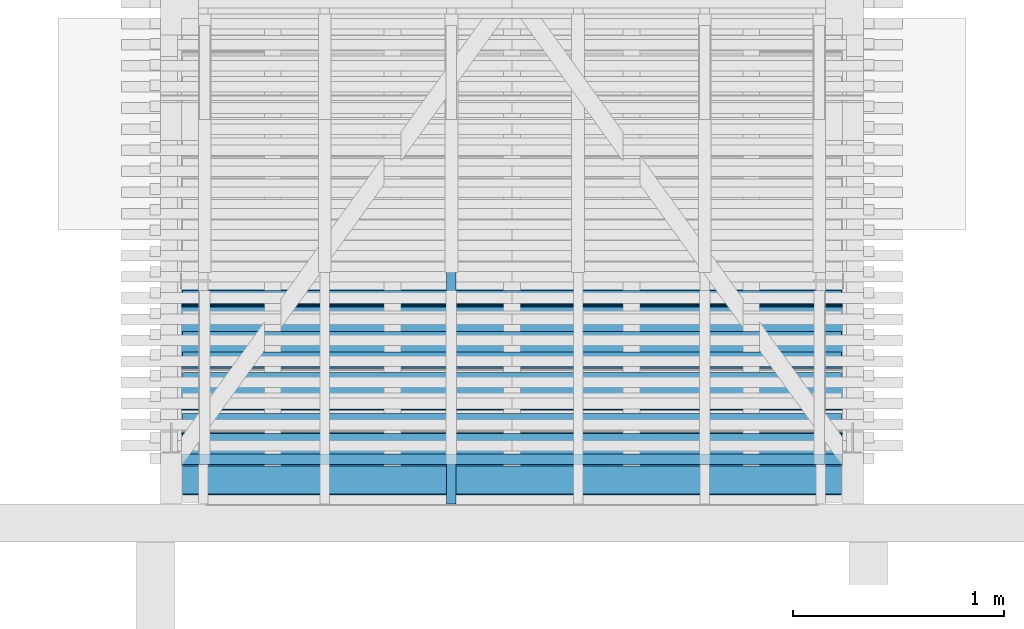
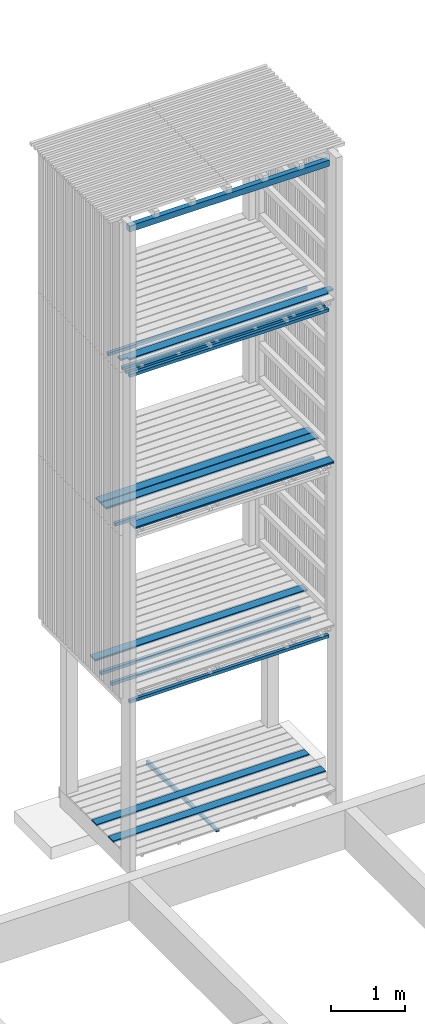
# One storey, part 139 of 182: 17 beams.
"""IFC2X3 building model written with IfcOpenShell, lengths in metres."""

import ifcopenshell
import ifcopenshell.guid

model = None  # the IFC model being written
_history = None  # IfcOwnerHistory: only IFC2X3 demands one
_inside = {}  # id of a spatial element -> (the spatial element, [elements in it])
_under = {}  # id of a project, library or spatial element -> (it, [spatial elements below it])
_declared = {}  # id of a project -> (the project, [libraries it declares])
_typed = {}  # id of a type object -> (the type object, [elements of that type])
_made_of = {}  # id of a material, layer set ... -> (it, [elements and type objects made of it])


def new_model(schema):
    """Start an empty IFC model of exactly this schema.

    Asked for "IFC4X3", IfcOpenShell would pick the latest addendum, in which some entities
    have other attributes; the version numbers below select the first issue.
    IFC2X3 requires an IfcOwnerHistory on every rooted entity: one is made here for all.
    """
    global model, _history
    if schema == "IFC4X3":
        model = ifcopenshell.file(schema_version=(4, 3, 0, 0))
    else:
        model = ifcopenshell.file(schema=schema)
    _inside.clear()
    _under.clear()
    _declared.clear()
    _typed.clear()
    _made_of.clear()
    _history = None
    if model.schema == "IFC2X3":
        org = make("IfcOrganization", Name="unknown")
        user = make(
            "IfcPersonAndOrganization",
            ThePerson=make("IfcPerson", FamilyName="unknown"),
            TheOrganization=org,
        )
        app = make(
            "IfcApplication",
            ApplicationDeveloper=org,
            Version="unknown",
            ApplicationFullName="unknown",
            ApplicationIdentifier="unknown",
        )
        _history = make(
            "IfcOwnerHistory",
            OwningUser=user,
            OwningApplication=app,
            ChangeAction="ADDED",
            CreationDate=0,
        )
    return model


def make(cls, **values):
    """One entity of the class cls with the attributes given. An attribute that is None is left unset."""
    return model.create_entity(
        cls, **{name: value for name, value in values.items() if value is not None}
    )


def rooted(cls, **values):
    """An entity with a GlobalId (a new one), such as an element, a storey or a relation."""
    return make(cls, GlobalId=ifcopenshell.guid.new(), OwnerHistory=_history, **values)


def si_unit(unit_type, name, prefix=None):
    """IfcSIUnit, for example si_unit("LENGTHUNIT", "METRE", prefix="MILLI")."""
    return make("IfcSIUnit", UnitType=unit_type, Prefix=prefix, Name=name)


def assignment(units):
    """IfcUnitAssignment: the units of a project."""
    return None if units is None else make("IfcUnitAssignment", Units=units)


def point(xyz):
    """IfcCartesianPoint."""
    return None if xyz is None else make("IfcCartesianPoint", Coordinates=xyz)


def direction(xyz):
    """IfcDirection."""
    return None if xyz is None else make("IfcDirection", DirectionRatios=xyz)


def frame(location, z_axis=None, x_axis=None):
    """IfcAxis2Placement3D, a coordinate frame: its origin and axes. An axis left out is left unset."""
    return make(
        "IfcAxis2Placement3D",
        Location=point(location),
        Axis=direction(z_axis),
        RefDirection=direction(x_axis),
    )


def origin():
    """The frame at (0, 0, 0) with its axes left unset."""
    return frame((0.0, 0.0, 0.0))


def place(relative_to, where):
    """IfcLocalPlacement: puts the frame where relative to a parent placement (None: the world)."""
    return make(
        "IfcLocalPlacement", PlacementRelTo=relative_to, RelativePlacement=where
    )


def context(
    kind, dimensions, precision=None, world=None, true_north=None, identifier=None
):
    """IfcGeometricRepresentationContext, for example the 3D "Model" context."""
    return make(
        "IfcGeometricRepresentationContext",
        ContextIdentifier=identifier,
        ContextType=kind,
        CoordinateSpaceDimension=dimensions,
        Precision=precision,
        WorldCoordinateSystem=world,
        TrueNorth=true_north,
    )


def project(units=None, contexts=None):
    """IfcProject with its units and contexts."""
    return rooted(
        "IfcProject",
        Name="project",
        RepresentationContexts=contexts,
        UnitsInContext=assignment(units),
    )


def spatial(cls, under=None, at=None, **own):
    """A site, building, storey or space (cls), placed at a placement, below another one or the project."""
    s = rooted(cls, ObjectPlacement=at, **own)
    if under is not None:
        _under.setdefault(under.id(), (under, []))[1].append(s)
    return s


def faces_of(points, faces, orient=None, outer=None):
    """IfcFace entities. A face is a list of loops; a loop is a list of indices into points, from 0.

    orient and outer hold one flag for each loop. By default every Orientation is true, the
    first loop of a face is its IfcFaceOuterBound and the others are IfcFaceBound.
    """
    made = []
    for i, loops in enumerate(faces):
        bounds = []
        for j, loop in enumerate(loops):
            is_outer = j == 0 if outer is None else outer[i][j]
            bounds.append(
                make(
                    "IfcFaceOuterBound" if is_outer else "IfcFaceBound",
                    Bound=make("IfcPolyLoop", Polygon=[points[k] for k in loop]),
                    Orientation=True if orient is None else orient[i][j],
                )
            )
        made.append(make("IfcFace", Bounds=bounds))
    return made


def faceted_brep(points, faces, orient=None, outer=None, voids=None):
    """IfcFacetedBrep: a solid bounded by flat faces; with voids (closed shells), ...WithVoids."""
    shared = [point(p) for p in points]
    hull = make("IfcClosedShell", CfsFaces=faces_of(shared, faces, orient, outer))
    if voids is None:
        return make("IfcFacetedBrep", Outer=hull)
    return make(
        "IfcFacetedBrepWithVoids",
        Outer=hull,
        Voids=[
            make(cls, CfsFaces=faces_of(shared, fs, o, b)) for cls, fs, o, b in voids
        ],
    )


def shape(context_of_items, identifier, shape_type, items):
    """IfcShapeRepresentation: the items that make up one representation, for example the "Body"."""
    return make(
        "IfcShapeRepresentation",
        ContextOfItems=context_of_items,
        RepresentationIdentifier=identifier,
        RepresentationType=shape_type,
        Items=items,
    )


def made_of(thing, what):
    """Note that an element or type object is made of a material, layer set ...; save() writes the relation."""
    if what is not None:
        _made_of.setdefault(what.id(), (what, []))[1].append(thing)
    return thing


def element(
    cls,
    number,
    at=None,
    inside=None,
    cuts=None,
    type_object=None,
    material=None,
    context=None,
    identifier="Body",
    shape_type=None,
    held_by="IfcProductDefinitionShape",
    body=None,
    shapes=None,
    **own,
):
    """One element of the class cls, such as IfcWall. Its Tag is "e" and its number.

    at: its placement. inside: the storey or other place that contains it. cuts: it is an
    opening in that element (IfcRelVoidsElement). A single representation is given by context,
    identifier, shape_type and body (its items); several are given by shapes. held_by: the class
    of the entity that holds the representations. save() writes the other relations.
    """
    e = rooted(cls, Tag="e%d" % number, ObjectPlacement=at, **own)
    if body is not None:
        shapes = [shape(context, identifier, shape_type, body)]
    if shapes is not None:
        e.Representation = make(held_by, Representations=shapes)
    if inside is not None:
        _inside.setdefault(inside.id(), (inside, []))[1].append(e)
    if cuts is not None:
        rooted(
            "IfcRelVoidsElement", RelatingBuildingElement=cuts, RelatedOpeningElement=e
        )
    if type_object is not None:
        _typed.setdefault(type_object.id(), (type_object, []))[1].append(e)
    return made_of(e, material)


def aggregate(whole, parts):
    """IfcRelAggregates: a whole, such as a stair, and the parts it consists of."""
    return rooted("IfcRelAggregates", RelatingObject=whole, RelatedObjects=parts)


def save(model, path):
    """Write the relations noted so far, then the file.

    IfcRelAggregates (storeys below a building ...), IfcRelContainedInSpatialStructure (elements
    in a storey), IfcRelDefinesByType, IfcRelAssociatesMaterial and IfcRelDeclares: one each for
    every whole, place, type object, material and project.
    """
    for whole, parts in _under.values():
        aggregate(whole, parts)
    for where, things in _inside.values():
        rooted(
            "IfcRelContainedInSpatialStructure",
            RelatedElements=things,
            RelatingStructure=where,
        )
    for kind, things in _typed.values():
        rooted("IfcRelDefinesByType", RelatedObjects=things, RelatingType=kind)
    for what, things in _made_of.values():
        rooted("IfcRelAssociatesMaterial", RelatedObjects=things, RelatingMaterial=what)
    for by, libraries in _declared.values():
        rooted("IfcRelDeclares", RelatingContext=by, RelatedDefinitions=libraries)
    model.write(path)


model = new_model("IFC2X3")

# Units and contexts
model_context = context("Model", 3, precision=1e-06, world=origin())
ifc_project = project(units=[si_unit("LENGTHUNIT", "METRE"), si_unit("PLANEANGLEUNIT", "RADIAN")], contexts=[model_context])

# Site, building, storey
site = spatial("IfcSite", under=ifc_project, CompositionType="ELEMENT")
building = spatial("IfcBuilding", under=site, CompositionType="ELEMENT")
storey = spatial("IfcBuildingStorey", under=building, Name="vs", CompositionType="ELEMENT", Elevation=-0.85)

# Beams
placement = place(None, origin())
beam_1_placement = place(placement, frame((36.38499999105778, 11.434577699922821, 0.033500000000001), z_axis=(0.0, 0.0, 1.0), x_axis=(-1.0, 0.0, 0.0)))
element("IfcBeam", 1, at=beam_1_placement, inside=storey, Name="Caillebotis", context=model_context, shape_type="Brep", body=[
    faceted_brep([(3.329999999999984, -0.067499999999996, 0.0135), (3.329999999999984, -0.072499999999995, 0.008500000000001), (3.329999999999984, -0.072499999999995, -0.013500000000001), (3.329999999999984, 0.072500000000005, -0.013500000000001), (3.329999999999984, 0.072500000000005, 0.0085), (3.329999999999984, 0.067500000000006, 0.0135), (0.0, 0.067500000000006, 0.0135), (0.0, 0.072500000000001, 0.0085), (0.0, 0.072500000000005, -0.013500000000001), (0.0, -0.072499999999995, -0.013500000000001), (0.0, -0.072499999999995, 0.008500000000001), (0.0, -0.067499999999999, 0.0135), (3.329999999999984, -0.072499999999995, -0.013500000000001), (3.329999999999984, -0.072499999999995, 0.008500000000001), (0.0, -0.072499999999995, 0.008500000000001), (0.0, -0.072499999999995, -0.013500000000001), (3.329999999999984, 0.072500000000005, -0.013500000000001), (3.329999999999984, -0.072499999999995, -0.013500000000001), (0.0, -0.072499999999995, -0.013500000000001), (0.0, 0.072500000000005, -0.013500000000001), (3.329999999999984, 0.072500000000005, 0.0085), (3.329999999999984, 0.072500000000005, -0.013500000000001), (0.0, 0.072500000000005, -0.013500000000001), (0.0, 0.072500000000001, 0.0085), (3.329999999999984, 0.067500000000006, 0.0135), (3.329999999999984, 0.072500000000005, 0.0085), (0.0, 0.072500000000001, 0.0085), (0.0, 0.067500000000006, 0.0135), (3.329999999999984, -0.067499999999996, 0.0135), (3.329999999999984, 0.067500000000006, 0.0135), (0.0, 0.067500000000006, 0.0135), (0.0, -0.067499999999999, 0.0135), (0.0, -0.072499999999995, 0.008500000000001), (3.329999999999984, -0.072499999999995, 0.008500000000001), (3.329999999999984, -0.067499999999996, 0.0135), (0.0, -0.067499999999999, 0.0135)], [[[0, 1, 2, 3, 4, 5]], [[6, 7, 8, 9, 10, 11]], [[12, 13, 14, 15]], [[16, 17, 18, 19]], [[20, 21, 22, 23]], [[24, 25, 26, 27]], [[28, 29, 30, 31]], [[32, 33, 34, 35]]]),
])
beam_2_placement = place(placement, frame((36.27999999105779, 10.776952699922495, 7.867999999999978), z_axis=(0.0, 0.0, 1.0), x_axis=(-1.0, 0.0, 0.0)))
element("IfcBeam", 2, at=beam_2_placement, inside=storey, Name="Bardage", context=model_context, shape_type="Brep", body=[
    faceted_brep([(3.120000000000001, 0.025000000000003, -0.025000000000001), (3.120000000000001, -0.024999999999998, -0.025000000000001), (-3e-15, -0.024999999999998, -0.025000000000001), (-3e-15, 0.025000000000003, -0.025000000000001), (-3e-15, -0.024999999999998, -0.025000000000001), (3.120000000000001, -0.024999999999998, -0.025000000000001), (3.120000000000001, -0.024999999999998, 0.024999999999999), (-3e-15, -0.024999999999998, 0.024999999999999), (3.120000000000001, -0.024999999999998, -0.025000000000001), (3.120000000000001, 0.025000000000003, -0.025000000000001), (3.120000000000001, 0.025000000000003, 0.024999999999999), (3.120000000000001, -0.024999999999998, 0.024999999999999), (3.120000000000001, 0.025000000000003, 0.024999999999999), (3.120000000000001, 0.025000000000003, -0.025000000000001), (-3e-15, 0.025000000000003, -0.025000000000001), (-3e-15, 0.025000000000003, 0.024999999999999), (-3e-15, -0.024999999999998, 0.024999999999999), (3.120000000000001, -0.024999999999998, 0.024999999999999), (3.120000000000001, 0.025000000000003, 0.024999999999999), (-3e-15, 0.025000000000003, 0.024999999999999), (-3e-15, -0.024999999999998, -0.025000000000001), (-3e-15, -0.024999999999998, 0.024999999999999), (-3e-15, 0.025000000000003, 0.024999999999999), (-3e-15, 0.025000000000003, -0.025000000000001)], [[[0, 1, 2, 3]], [[4, 5, 6, 7]], [[8, 9, 10, 11]], [[12, 13, 14, 15]], [[16, 17, 18, 19]], [[20, 21, 22, 23]]]),
])
beam_3_placement = place(placement, frame((36.38499999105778, 10.984577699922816, 0.033500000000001), z_axis=(0.0, 0.0, 1.0), x_axis=(-1.0, -1e-15, 0.0)))
element("IfcBeam", 3, at=beam_3_placement, inside=storey, Name="Caillebotis", context=model_context, shape_type="Brep", body=[
    faceted_brep([(3.329999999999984, -0.067500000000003, 0.0135), (3.329999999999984, -0.072500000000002, 0.008500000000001), (3.329999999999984, -0.072499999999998, -0.013500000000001), (3.329999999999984, 0.072499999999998, -0.013500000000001), (3.329999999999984, 0.072499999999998, 0.0085), (3.329999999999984, 0.067500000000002, 0.0135), (0.0, 0.067500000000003, 0.0135), (0.0, 0.072500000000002, 0.0085), (0.0, 0.072500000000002, -0.013500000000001), (0.0, -0.072499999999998, -0.013500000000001), (0.0, -0.072499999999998, 0.008500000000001), (0.0, -0.067499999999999, 0.0135), (3.329999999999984, -0.072499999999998, -0.013500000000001), (3.329999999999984, -0.072500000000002, 0.008500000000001), (0.0, -0.072499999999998, 0.008500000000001), (0.0, -0.072499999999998, -0.013500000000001), (3.329999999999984, 0.072499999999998, -0.013500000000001), (3.329999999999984, -0.072499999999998, -0.013500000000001), (0.0, -0.072499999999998, -0.013500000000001), (0.0, 0.072500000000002, -0.013500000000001), (3.329999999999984, 0.072499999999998, 0.0085), (3.329999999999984, 0.072499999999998, -0.013500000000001), (0.0, 0.072500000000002, -0.013500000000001), (0.0, 0.072500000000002, 0.0085), (3.329999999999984, 0.067500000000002, 0.0135), (3.329999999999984, 0.072499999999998, 0.0085), (0.0, 0.072500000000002, 0.0085), (0.0, 0.067500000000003, 0.0135), (3.329999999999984, -0.067500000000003, 0.0135), (3.329999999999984, 0.067500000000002, 0.0135), (0.0, 0.067500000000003, 0.0135), (0.0, -0.067499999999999, 0.0135), (0.0, -0.072499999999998, 0.008500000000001), (3.329999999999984, -0.072500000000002, 0.008500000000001), (3.329999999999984, -0.067500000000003, 0.0135), (0.0, -0.067499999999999, 0.0135)], [[[0, 1, 2, 3, 4, 5]], [[6, 7, 8, 9, 10, 11]], [[12, 13, 14, 15]], [[16, 17, 18, 19]], [[20, 21, 22, 23]], [[24, 25, 26, 27]], [[28, 29, 30, 31]], [[32, 33, 34, 35]]]),
])
beam_4_placement = place(placement, frame((36.384999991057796, 11.334577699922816, 5.433499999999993), z_axis=(0.0, 0.0, 1.0), x_axis=(-1.0, 0.0, 0.0)))
element("IfcBeam", 4, at=beam_4_placement, inside=storey, Name="Caillebotis", context=model_context, shape_type="Brep", body=[
    faceted_brep([(3.329999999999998, -0.072499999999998, -0.0135), (3.329999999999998, 0.072500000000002, -0.0135), (3.329999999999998, 0.072500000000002, 0.0085), (3.329999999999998, 0.067500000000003, 0.0135), (3.329999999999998, -0.067500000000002, 0.0135), (3.329999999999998, -0.072499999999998, 0.008500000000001), (0.0, -0.072499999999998, 0.008500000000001), (0.0, -0.067500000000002, 0.0135), (0.0, 0.067500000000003, 0.0135), (0.0, 0.072499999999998, 0.0085), (0.0, 0.072499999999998, -0.0135), (0.0, -0.072499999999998, -0.0135), (3.329999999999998, 0.072500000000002, 0.0085), (3.329999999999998, 0.072500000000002, -0.0135), (0.0, 0.072499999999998, -0.0135), (0.0, 0.072499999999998, 0.0085), (3.329999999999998, 0.067500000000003, 0.0135), (3.329999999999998, 0.072500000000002, 0.0085), (0.0, 0.072499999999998, 0.0085), (0.0, 0.067500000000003, 0.0135), (3.329999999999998, -0.067500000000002, 0.0135), (3.329999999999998, 0.067500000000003, 0.0135), (0.0, 0.067500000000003, 0.0135), (0.0, -0.067500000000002, 0.0135), (3.329999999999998, -0.072499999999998, 0.008500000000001), (3.329999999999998, -0.067500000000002, 0.0135), (0.0, -0.067500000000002, 0.0135), (0.0, -0.072499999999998, 0.008500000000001), (3.329999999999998, -0.072499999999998, -0.0135), (3.329999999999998, -0.072499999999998, 0.008500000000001), (0.0, -0.072499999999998, 0.008500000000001), (0.0, -0.072499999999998, -0.0135), (0.0, 0.072499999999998, -0.0135), (3.329999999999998, 0.072500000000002, -0.0135), (3.329999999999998, -0.072499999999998, -0.0135), (0.0, -0.072499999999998, -0.0135)], [[[0, 1, 2, 3, 4, 5]], [[6, 7, 8, 9, 10, 11]], [[12, 13, 14, 15]], [[16, 17, 18, 19]], [[20, 21, 22, 23]], [[24, 25, 26, 27]], [[28, 29, 30, 31]], [[32, 33, 34, 35]]]),
])
beam_5_placement = place(placement, frame((36.38499999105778, 11.484577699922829, 2.733499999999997), z_axis=(0.0, 0.0, 1.0), x_axis=(-1.0, -8e-15, 0.0)))
element("IfcBeam", 5, at=beam_5_placement, inside=storey, Name="Caillebotis", context=model_context, shape_type="Brep", body=[
    faceted_brep([(3.329999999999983, -0.072500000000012, -0.0135), (3.329999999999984, 0.072499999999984, -0.0135), (3.329999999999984, 0.072499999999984, 0.0085), (3.329999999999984, 0.067499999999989, 0.0135), (3.329999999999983, -0.067500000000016, 0.0135), (3.329999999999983, -0.072500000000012, 0.008500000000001), (-1.5e-14, -0.072499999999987, 0.008500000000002), (-1.5e-14, -0.067499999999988, 0.0135), (-1.4e-14, 0.067500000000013, 0.0135), (-1.4e-14, 0.072500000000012, 0.0085), (-1.4e-14, 0.072500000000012, -0.0135), (-1.5e-14, -0.072499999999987, -0.0135), (3.329999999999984, 0.072499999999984, 0.0085), (3.329999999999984, 0.072499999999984, -0.0135), (-1.4e-14, 0.072500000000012, -0.0135), (-1.4e-14, 0.072500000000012, 0.0085), (3.329999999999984, 0.067499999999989, 0.0135), (3.329999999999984, 0.072499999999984, 0.0085), (-1.4e-14, 0.072500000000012, 0.0085), (-1.4e-14, 0.067500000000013, 0.0135), (3.329999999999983, -0.067500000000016, 0.0135), (3.329999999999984, 0.067499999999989, 0.0135), (-1.4e-14, 0.067500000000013, 0.0135), (-1.5e-14, -0.067499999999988, 0.0135), (3.329999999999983, -0.072500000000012, 0.008500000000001), (3.329999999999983, -0.067500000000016, 0.0135), (-1.5e-14, -0.067499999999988, 0.0135), (-1.5e-14, -0.072499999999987, 0.008500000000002), (3.329999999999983, -0.072500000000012, -0.0135), (3.329999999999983, -0.072500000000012, 0.008500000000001), (-1.5e-14, -0.072499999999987, 0.008500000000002), (-1.5e-14, -0.072499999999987, -0.0135), (-1.4e-14, 0.072500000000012, -0.0135), (3.329999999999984, 0.072499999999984, -0.0135), (3.329999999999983, -0.072500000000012, -0.0135), (-1.5e-14, -0.072499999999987, -0.0135)], [[[0, 1, 2, 3, 4, 5]], [[6, 7, 8, 9, 10, 11]], [[12, 13, 14, 15]], [[16, 17, 18, 19]], [[20, 21, 22, 23]], [[24, 25, 26, 27]], [[28, 29, 30, 31]], [[32, 33, 34, 35]]]),
])
beam_6_placement = place(placement, frame((36.27999999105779, 10.680077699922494, 2.467999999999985), z_axis=(0.0, 0.0, 1.0), x_axis=(-1.0, 0.0, 0.0)))
element("IfcBeam", 6, at=beam_6_placement, inside=storey, Name="Bardage", context=model_context, shape_type="Brep", body=[
    faceted_brep([(3.120000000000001, -0.025000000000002, 0.025), (3.120000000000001, -0.025000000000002, -0.025), (3.120000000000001, 0.024999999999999, -0.025), (3.120000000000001, 0.024999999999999, 0.025), (-3e-15, 0.024999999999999, 0.025), (-3e-15, 0.024999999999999, -0.025), (-3e-15, -0.025000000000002, -0.025), (-3e-15, -0.025000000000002, 0.025), (3.120000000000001, -0.025000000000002, -0.025), (3.120000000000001, -0.025000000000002, 0.025), (-3e-15, -0.025000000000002, 0.025), (-3e-15, -0.025000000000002, -0.025), (3.120000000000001, 0.024999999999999, -0.025), (3.120000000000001, -0.025000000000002, -0.025), (-3e-15, -0.025000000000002, -0.025), (-3e-15, 0.024999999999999, -0.025), (3.120000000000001, 0.024999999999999, 0.025), (3.120000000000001, 0.024999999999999, -0.025), (-3e-15, 0.024999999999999, -0.025), (-3e-15, 0.024999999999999, 0.025), (3.120000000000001, -0.025000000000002, 0.025), (3.120000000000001, 0.024999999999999, 0.025), (-3e-15, 0.024999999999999, 0.025), (-3e-15, -0.025000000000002, 0.025)], [[[0, 1, 2, 3]], [[4, 5, 6, 7]], [[8, 9, 10, 11]], [[12, 13, 14, 15]], [[16, 17, 18, 19]], [[20, 21, 22, 23]]]),
])
beam_7_placement = place(placement, frame((36.2849999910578, 10.690077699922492, 10.30499999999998), z_axis=(0.0, 0.0, 1.0), x_axis=(-1.0, 0.0, 0.0)))
element("IfcBeam", 7, at=beam_7_placement, inside=storey, Name="Support bardage", context=model_context, shape_type="Brep", body=[
    faceted_brep([(2e-15, 0.04, -0.050000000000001), (2e-15, -0.039999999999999, -0.050000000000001), (2e-15, -0.039999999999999, 0.050000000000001), (2e-15, 0.04, 0.050000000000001), (3.130000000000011, -0.039999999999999, 0.050000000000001), (3.130000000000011, -0.039999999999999, -0.050000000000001), (3.130000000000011, 0.04, -0.050000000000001), (3.130000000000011, 0.04, 0.050000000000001), (2e-15, -0.039999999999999, 0.050000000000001), (2e-15, -0.039999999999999, -0.050000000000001), (3.130000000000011, -0.039999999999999, -0.050000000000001), (3.130000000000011, -0.039999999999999, 0.050000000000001), (3.130000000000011, -0.039999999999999, -0.050000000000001), (2e-15, -0.039999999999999, -0.050000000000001), (2e-15, 0.04, -0.050000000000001), (3.130000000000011, 0.04, -0.050000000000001), (3.130000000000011, 0.04, -0.050000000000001), (2e-15, 0.04, -0.050000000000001), (2e-15, 0.04, 0.050000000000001), (3.130000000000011, 0.04, 0.050000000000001), (3.130000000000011, 0.04, 0.050000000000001), (2e-15, 0.04, 0.050000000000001), (2e-15, -0.039999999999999, 0.050000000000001), (3.130000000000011, -0.039999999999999, 0.050000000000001)], [[[0, 1, 2, 3]], [[4, 5, 6, 7]], [[8, 9, 10, 11]], [[12, 13, 14, 15]], [[16, 17, 18, 19]], [[20, 21, 22, 23]]]),
])
beam_8_placement = place(placement, frame((36.27999999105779, 10.680077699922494, 7.867999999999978), z_axis=(0.0, 0.0, 1.0), x_axis=(-1.0, 0.0, 0.0)))
element("IfcBeam", 8, at=beam_8_placement, inside=storey, Name="Bardage", context=model_context, shape_type="Brep", body=[
    faceted_brep([(3.120000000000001, -0.025000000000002, 0.024999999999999), (3.120000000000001, -0.025000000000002, -0.025000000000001), (3.120000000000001, 0.024999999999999, -0.025000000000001), (3.120000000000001, 0.024999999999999, 0.024999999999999), (-3e-15, 0.024999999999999, 0.024999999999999), (-3e-15, 0.024999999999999, -0.025000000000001), (-3e-15, -0.024999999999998, -0.025000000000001), (-3e-15, -0.024999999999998, 0.024999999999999), (3.120000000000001, -0.025000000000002, -0.025000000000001), (3.120000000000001, -0.025000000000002, 0.024999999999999), (-3e-15, -0.024999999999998, 0.024999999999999), (-3e-15, -0.024999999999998, -0.025000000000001), (3.120000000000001, 0.024999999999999, -0.025000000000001), (3.120000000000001, -0.025000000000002, -0.025000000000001), (-3e-15, -0.024999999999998, -0.025000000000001), (-3e-15, 0.024999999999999, -0.025000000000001), (3.120000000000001, 0.024999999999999, 0.024999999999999), (3.120000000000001, 0.024999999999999, -0.025000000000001), (-3e-15, 0.024999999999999, -0.025000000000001), (-3e-15, 0.024999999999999, 0.024999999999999), (3.120000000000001, -0.025000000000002, 0.024999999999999), (3.120000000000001, 0.024999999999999, 0.024999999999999), (-3e-15, 0.024999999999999, 0.024999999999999), (-3e-15, -0.024999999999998, 0.024999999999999)], [[[0, 1, 2, 3]], [[4, 5, 6, 7]], [[8, 9, 10, 11]], [[12, 13, 14, 15]], [[16, 17, 18, 19]], [[20, 21, 22, 23]]]),
])
beam_9_placement = place(placement, frame((36.27999999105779, 11.455077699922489, 2.467999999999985), z_axis=(0.0, 0.0, 1.0), x_axis=(-1.0, -1e-15, 0.0)))
element("IfcBeam", 9, at=beam_9_placement, inside=storey, Name="Bardage", context=model_context, shape_type="Brep", body=[
    faceted_brep([(3.120000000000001, 0.025000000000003, -0.025), (3.120000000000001, -0.025000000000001, -0.025), (-3e-15, -0.024999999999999, -0.025), (-3e-15, 0.025000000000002, -0.025), (-3e-15, -0.024999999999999, -0.025), (3.120000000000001, -0.025000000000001, -0.025), (3.120000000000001, -0.025000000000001, 0.025), (-3e-15, -0.024999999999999, 0.025), (3.120000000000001, -0.025000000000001, -0.025), (3.120000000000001, 0.025000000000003, -0.025), (3.120000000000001, 0.025000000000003, 0.025), (3.120000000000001, -0.025000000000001, 0.025), (3.120000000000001, 0.025000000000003, 0.025), (3.120000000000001, 0.025000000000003, -0.025), (-3e-15, 0.025000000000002, -0.025), (-3e-15, 0.025000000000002, 0.025), (-3e-15, -0.024999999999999, 0.025), (3.120000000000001, -0.025000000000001, 0.025), (3.120000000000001, 0.025000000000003, 0.025), (-3e-15, 0.025000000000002, 0.025), (-3e-15, -0.024999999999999, -0.025), (-3e-15, -0.024999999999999, 0.025), (-3e-15, 0.025000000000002, 0.025), (-3e-15, 0.025000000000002, -0.025)], [[[0, 1, 2, 3]], [[4, 5, 6, 7]], [[8, 9, 10, 11]], [[12, 13, 14, 15]], [[16, 17, 18, 19]], [[20, 21, 22, 23]]]),
])
beam_10_placement = place(placement, frame((36.27999999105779, 11.164452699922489, 2.467999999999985), z_axis=(0.0, 0.0, 1.0), x_axis=(-1.0, 0.0, 0.0)))
element("IfcBeam", 10, at=beam_10_placement, inside=storey, Name="Bardage", context=model_context, shape_type="Brep", body=[
    faceted_brep([(3.120000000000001, 0.025000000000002, -0.025), (3.120000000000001, -0.024999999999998, -0.025), (-3e-15, -0.024999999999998, -0.025), (-3e-15, 0.024999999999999, -0.025), (-3e-15, -0.024999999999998, -0.025), (3.120000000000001, -0.024999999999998, -0.025), (3.120000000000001, -0.024999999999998, 0.025), (-3e-15, -0.024999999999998, 0.025), (3.120000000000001, -0.024999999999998, -0.025), (3.120000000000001, 0.025000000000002, -0.025), (3.120000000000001, 0.025000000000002, 0.025), (3.120000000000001, -0.024999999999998, 0.025), (3.120000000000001, 0.025000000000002, 0.025), (3.120000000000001, 0.025000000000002, -0.025), (-3e-15, 0.024999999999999, -0.025), (-3e-15, 0.024999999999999, 0.025), (-3e-15, -0.024999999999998, 0.025), (3.120000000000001, -0.024999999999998, 0.025), (3.120000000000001, 0.025000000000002, 0.025), (-3e-15, 0.024999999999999, 0.025), (-3e-15, -0.024999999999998, -0.025), (-3e-15, -0.024999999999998, 0.025), (-3e-15, 0.024999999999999, 0.025), (-3e-15, 0.024999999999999, -0.025)], [[[0, 1, 2, 3]], [[4, 5, 6, 7]], [[8, 9, 10, 11]], [[12, 13, 14, 15]], [[16, 17, 18, 19]], [[20, 21, 22, 23]]]),
])
beam_11_placement = place(placement, frame((36.384999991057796, 11.18457769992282, 5.433499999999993), z_axis=(0.0, 0.0, 1.0), x_axis=(-1.0, 0.0, 0.0)))
element("IfcBeam", 11, at=beam_11_placement, inside=storey, Name="Caillebotis", context=model_context, shape_type="Brep", body=[
    faceted_brep([(3.329999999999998, -0.072499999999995, -0.0135), (3.329999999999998, 0.072500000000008, -0.0135), (3.329999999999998, 0.072500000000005, 0.0085), (3.329999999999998, 0.067500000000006, 0.0135), (3.329999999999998, -0.067499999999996, 0.0135), (3.329999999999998, -0.072499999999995, 0.008500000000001), (0.0, -0.072499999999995, 0.008500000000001), (0.0, -0.067499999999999, 0.0135), (0.0, 0.067500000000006, 0.0135), (0.0, 0.072500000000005, 0.0085), (0.0, 0.072500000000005, -0.0135), (0.0, -0.072499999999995, -0.0135), (3.329999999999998, 0.072500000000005, 0.0085), (3.329999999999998, 0.072500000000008, -0.0135), (0.0, 0.072500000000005, -0.0135), (0.0, 0.072500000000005, 0.0085), (3.329999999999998, 0.067500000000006, 0.0135), (3.329999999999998, 0.072500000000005, 0.0085), (0.0, 0.072500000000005, 0.0085), (0.0, 0.067500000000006, 0.0135), (3.329999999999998, -0.067499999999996, 0.0135), (3.329999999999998, 0.067500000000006, 0.0135), (0.0, 0.067500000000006, 0.0135), (0.0, -0.067499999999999, 0.0135), (3.329999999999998, -0.072499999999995, 0.008500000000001), (3.329999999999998, -0.067499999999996, 0.0135), (0.0, -0.067499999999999, 0.0135), (0.0, -0.072499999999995, 0.008500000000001), (3.329999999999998, -0.072499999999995, -0.0135), (3.329999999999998, -0.072499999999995, 0.008500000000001), (0.0, -0.072499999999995, 0.008500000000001), (0.0, -0.072499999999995, -0.0135), (0.0, 0.072500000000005, -0.0135), (3.329999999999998, 0.072500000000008, -0.0135), (3.329999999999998, -0.072499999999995, -0.0135), (0.0, -0.072499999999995, -0.0135)], [[[0, 1, 2, 3, 4, 5]], [[6, 7, 8, 9, 10, 11]], [[12, 13, 14, 15]], [[16, 17, 18, 19]], [[20, 21, 22, 23]], [[24, 25, 26, 27]], [[28, 29, 30, 31]], [[32, 33, 34, 35]]]),
])
beam_12_placement = place(placement, frame((36.384999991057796, 10.734577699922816, 8.13349999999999), z_axis=(0.0, 0.0, 1.0), x_axis=(-1.0, 0.0, 0.0)))
element("IfcBeam", 12, at=beam_12_placement, inside=storey, Name="Caillebotis", context=model_context, shape_type="Brep", body=[
    faceted_brep([(0.0, -0.072499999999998, -0.013500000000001), (0.0, -0.072499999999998, 0.0085), (0.0, -0.067499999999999, 0.013499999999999), (0.0, 0.019500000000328, 0.013499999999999), (0.0, 0.019500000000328, -0.013500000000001), (3.329999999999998, -0.067499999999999, 0.013499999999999), (3.329999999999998, 0.019500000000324, 0.013499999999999), (3.225000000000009, 0.019500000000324, 0.013499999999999), (3.225000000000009, 0.067500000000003, 0.013499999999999), (0.105000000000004, 0.067500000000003, 0.013499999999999), (0.105000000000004, 0.019500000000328, 0.013499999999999), (0.0, 0.019500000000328, 0.013499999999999), (0.0, -0.067499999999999, 0.013499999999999), (0.105000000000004, 0.019500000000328, 0.013499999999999), (0.105000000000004, 0.067500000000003, 0.013499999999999), (0.105000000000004, 0.072500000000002, 0.0085), (0.105000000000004, 0.072500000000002, -0.013500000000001), (0.105000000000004, 0.019500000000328, -0.013500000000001), (0.105000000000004, 0.072500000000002, 0.0085), (0.105000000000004, 0.067500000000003, 0.013499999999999), (3.225000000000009, 0.067500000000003, 0.013499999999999), (3.225000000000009, 0.072500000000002, 0.008499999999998), (0.105000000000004, 0.072500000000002, -0.013500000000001), (0.105000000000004, 0.072500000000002, 0.0085), (3.225000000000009, 0.072500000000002, 0.008499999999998), (3.225000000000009, 0.072500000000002, -0.013500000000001), (3.225000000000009, 0.072500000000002, -0.013500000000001), (3.225000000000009, 0.072500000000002, 0.008499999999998), (3.225000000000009, 0.067500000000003, 0.013499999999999), (3.225000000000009, 0.019500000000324, 0.013499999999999), (3.225000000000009, 0.019500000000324, -0.013500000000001), (3.225000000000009, 0.019500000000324, -0.013500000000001), (3.225000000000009, 0.019500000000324, 0.013499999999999), (3.329999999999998, 0.019500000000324, 0.013499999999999), (3.329999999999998, 0.019500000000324, -0.013500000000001), (3.329999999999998, -0.072499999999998, 0.0085), (3.329999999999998, -0.072499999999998, -0.013500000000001), (3.329999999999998, 0.019500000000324, -0.013500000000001), (3.329999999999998, 0.019500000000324, 0.013499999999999), (3.329999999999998, -0.067499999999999, 0.013499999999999), (3.329999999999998, -0.072499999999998, 0.0085), (3.329999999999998, -0.067499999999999, 0.013499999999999), (0.0, -0.067499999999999, 0.013499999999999), (0.0, -0.072499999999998, 0.0085), (3.329999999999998, -0.072499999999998, -0.013500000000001), (3.329999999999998, -0.072499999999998, 0.0085), (0.0, -0.072499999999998, 0.0085), (0.0, -0.072499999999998, -0.013500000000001), (0.105000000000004, 0.019500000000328, -0.013500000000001), (0.105000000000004, 0.072500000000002, -0.013500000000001), (3.225000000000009, 0.072500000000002, -0.013500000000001), (3.225000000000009, 0.019500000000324, -0.013500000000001), (3.329999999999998, 0.019500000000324, -0.013500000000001), (3.329999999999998, -0.072499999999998, -0.013500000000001), (0.0, -0.072499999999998, -0.013500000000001), (0.0, 0.019500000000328, -0.013500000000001), (0.0, 0.019500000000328, 0.013499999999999), (0.105000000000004, 0.019500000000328, 0.013499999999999), (0.105000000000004, 0.019500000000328, -0.013500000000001), (0.0, 0.019500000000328, -0.013500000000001)], [[[0, 1, 2, 3, 4]], [[5, 6, 7, 8, 9, 10, 11, 12]], [[13, 14, 15, 16, 17]], [[18, 19, 20, 21]], [[22, 23, 24, 25]], [[26, 27, 28, 29, 30]], [[31, 32, 33, 34]], [[35, 36, 37, 38, 39]], [[40, 41, 42, 43]], [[44, 45, 46, 47]], [[48, 49, 50, 51, 52, 53, 54, 55]], [[56, 57, 58, 59]]]),
])
beam_13_placement = place(placement, frame((34.4329999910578, 10.470077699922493, -0.015599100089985), z_axis=(0.0, 0.0, 1.0), x_axis=(0.0, 1.0, 0.0)))
element("IfcBeam", 13, at=beam_13_placement, inside=storey, Name="Calage", context=model_context, shape_type="Brep", body=[
    faceted_brep([(0.0, 0.022500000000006, 0.002600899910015), (1.91000000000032, 0.022500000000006, -0.035599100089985), (1.91000000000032, -0.022499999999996, -0.035599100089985), (0.0, -0.022499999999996, 0.002600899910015), (0.0, -0.022499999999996, 0.035599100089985), (0.0, 0.022500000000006, 0.035599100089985), (0.0, 0.022500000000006, 0.002600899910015), (0.0, -0.022499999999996, 0.002600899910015), (0.0, 0.022500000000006, 0.035599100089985), (0.0, -0.022499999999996, 0.035599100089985), (1.910000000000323, -0.022499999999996, 0.035599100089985), (1.910000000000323, 0.022500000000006, 0.035599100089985), (0.0, 0.022500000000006, 0.002600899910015), (0.0, 0.022500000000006, 0.035599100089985), (1.910000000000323, 0.022500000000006, 0.035599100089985), (1.91000000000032, 0.022500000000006, -0.035599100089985), (1.91000000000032, 0.022500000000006, -0.035599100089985), (1.910000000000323, 0.022500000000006, 0.035599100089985), (1.910000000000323, -0.022499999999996, 0.035599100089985), (1.91000000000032, -0.022499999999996, -0.035599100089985), (1.91000000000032, -0.022499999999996, -0.035599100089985), (1.910000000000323, -0.022499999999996, 0.035599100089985), (0.0, -0.022499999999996, 0.035599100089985), (0.0, -0.022499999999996, 0.002600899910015)], [[[0, 1, 2, 3]], [[4, 5, 6, 7]], [[8, 9, 10, 11]], [[12, 13, 14, 15]], [[16, 17, 18, 19]], [[20, 21, 22, 23]]]),
])
beam_14_placement = place(placement, frame((36.27999999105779, 11.261327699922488, 7.867999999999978), z_axis=(0.0, 0.0, 1.0), x_axis=(-1.0, 0.0, 0.0)))
element("IfcBeam", 14, at=beam_14_placement, inside=storey, Name="Bardage", context=model_context, shape_type="Brep", body=[
    faceted_brep([(3.120000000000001, 0.024999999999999, -0.025000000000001), (3.120000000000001, -0.024999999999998, -0.025000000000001), (-3e-15, -0.025000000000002, -0.025000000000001), (-3e-15, 0.024999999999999, -0.025000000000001), (-3e-15, -0.025000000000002, -0.025000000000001), (3.120000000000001, -0.024999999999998, -0.025000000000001), (3.120000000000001, -0.024999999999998, 0.024999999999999), (-3e-15, -0.025000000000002, 0.024999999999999), (3.120000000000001, -0.024999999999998, -0.025000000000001), (3.120000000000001, 0.024999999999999, -0.025000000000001), (3.120000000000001, 0.024999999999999, 0.024999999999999), (3.120000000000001, -0.024999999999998, 0.024999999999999), (3.120000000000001, 0.024999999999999, 0.024999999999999), (3.120000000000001, 0.024999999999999, -0.025000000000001), (-3e-15, 0.024999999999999, -0.025000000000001), (-3e-15, 0.024999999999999, 0.024999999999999), (-3e-15, -0.025000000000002, 0.024999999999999), (3.120000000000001, -0.024999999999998, 0.024999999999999), (3.120000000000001, 0.024999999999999, 0.024999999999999), (-3e-15, 0.024999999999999, 0.024999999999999), (-3e-15, -0.025000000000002, -0.025000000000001), (-3e-15, -0.025000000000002, 0.024999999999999), (-3e-15, 0.024999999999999, 0.024999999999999), (-3e-15, 0.024999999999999, -0.025000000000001)], [[[0, 1, 2, 3]], [[4, 5, 6, 7]], [[8, 9, 10, 11]], [[12, 13, 14, 15]], [[16, 17, 18, 19]], [[20, 21, 22, 23]]]),
])
beam_15_placement = place(placement, frame((36.27999999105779, 10.873827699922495, 7.867999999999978), z_axis=(0.0, 0.0, 1.0), x_axis=(-1.0, 0.0, 0.0)))
element("IfcBeam", 15, at=beam_15_placement, inside=storey, Name="Bardage", context=model_context, shape_type="Brep", body=[
    faceted_brep([(3.120000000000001, 0.025000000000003, -0.025000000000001), (3.120000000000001, -0.024999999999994, -0.025000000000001), (-3e-15, -0.024999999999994, -0.025000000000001), (-3e-15, 0.025000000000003, -0.025000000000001), (-3e-15, -0.024999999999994, -0.025000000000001), (3.120000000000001, -0.024999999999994, -0.025000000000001), (3.120000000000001, -0.024999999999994, 0.024999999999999), (-3e-15, -0.024999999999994, 0.024999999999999), (3.120000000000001, -0.024999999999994, -0.025000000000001), (3.120000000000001, 0.025000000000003, -0.025000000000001), (3.120000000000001, 0.025000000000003, 0.024999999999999), (3.120000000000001, -0.024999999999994, 0.024999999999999), (3.120000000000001, 0.025000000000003, 0.024999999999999), (3.120000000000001, 0.025000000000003, -0.025000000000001), (-3e-15, 0.025000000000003, -0.025000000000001), (-3e-15, 0.025000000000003, 0.024999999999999), (-3e-15, -0.024999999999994, 0.024999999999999), (3.120000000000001, -0.024999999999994, 0.024999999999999), (3.120000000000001, 0.025000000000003, 0.024999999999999), (-3e-15, 0.025000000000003, 0.024999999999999), (-3e-15, -0.024999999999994, -0.025000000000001), (-3e-15, -0.024999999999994, 0.024999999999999), (-3e-15, 0.025000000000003, 0.024999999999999), (-3e-15, 0.025000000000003, -0.025000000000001)], [[[0, 1, 2, 3]], [[4, 5, 6, 7]], [[8, 9, 10, 11]], [[12, 13, 14, 15]], [[16, 17, 18, 19]], [[20, 21, 22, 23]]]),
])
beam_16_placement = place(placement, frame((36.27999999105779, 10.584577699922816, 5.433499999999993), z_axis=(0.0, 0.0, 1.0), x_axis=(-1.0, 0.0, 0.0)))
element("IfcBeam", 16, at=beam_16_placement, inside=storey, Name="Caillebotis", context=model_context, shape_type="Brep", body=[
    faceted_brep([(-3e-15, -0.072500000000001, 0.008500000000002), (-3e-15, -0.067500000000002, 0.0135), (-3e-15, 0.067499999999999, 0.0135), (-3e-15, 0.072499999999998, 0.008500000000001), (-3e-15, 0.072499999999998, -0.0135), (-3e-15, -0.072500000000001, -0.0135), (-3e-15, 0.072499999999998, -0.0135), (-3e-15, 0.072499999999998, 0.008500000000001), (3.120000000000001, 0.072499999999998, 0.0085), (3.120000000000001, 0.072499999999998, -0.0135), (-3e-15, -0.072500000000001, -0.0135), (-3e-15, 0.072499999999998, -0.0135), (3.120000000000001, 0.072499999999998, -0.0135), (3.120000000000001, -0.072500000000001, -0.0135), (-3e-15, -0.072500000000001, 0.008500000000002), (-3e-15, -0.072500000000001, -0.0135), (3.120000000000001, -0.072500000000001, -0.0135), (3.120000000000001, -0.072500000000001, 0.008500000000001), (-3e-15, -0.067500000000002, 0.0135), (-3e-15, -0.072500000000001, 0.008500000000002), (3.120000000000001, -0.072500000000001, 0.008500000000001), (3.120000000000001, -0.067500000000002, 0.0135), (-3e-15, 0.067499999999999, 0.0135), (-3e-15, -0.067500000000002, 0.0135), (3.120000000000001, -0.067500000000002, 0.0135), (3.120000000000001, 0.067499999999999, 0.0135), (-3e-15, 0.072499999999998, 0.008500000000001), (-3e-15, 0.067499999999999, 0.0135), (3.120000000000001, 0.067499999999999, 0.0135), (3.120000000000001, 0.072499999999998, 0.0085), (3.120000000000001, -0.072500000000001, -0.0135), (3.120000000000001, 0.072499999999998, -0.0135), (3.120000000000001, 0.072499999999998, 0.0085), (3.120000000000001, 0.067499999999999, 0.0135), (3.120000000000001, -0.067500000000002, 0.0135), (3.120000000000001, -0.072500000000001, 0.008500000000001)], [[[0, 1, 2, 3, 4, 5]], [[6, 7, 8, 9]], [[10, 11, 12, 13]], [[14, 15, 16, 17]], [[18, 19, 20, 21]], [[22, 23, 24, 25]], [[26, 27, 28, 29]], [[30, 31, 32, 33, 34, 35]]]),
])
beam_17_placement = place(placement, frame((36.27999999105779, 11.067577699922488, 5.167999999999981), z_axis=(0.0, 0.0, 1.0), x_axis=(-1.0, 0.0, 0.0)))
element("IfcBeam", 17, at=beam_17_placement, inside=storey, Name="Bardage", context=model_context, shape_type="Brep", body=[
    faceted_brep([(3.120000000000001, 0.025000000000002, -0.025), (3.120000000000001, -0.025000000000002, -0.025), (-3e-15, -0.025000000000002, -0.025), (-3e-15, 0.024999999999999, -0.025), (-3e-15, -0.025000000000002, -0.025), (3.120000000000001, -0.025000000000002, -0.025), (3.120000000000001, -0.025000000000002, 0.025000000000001), (-3e-15, -0.025000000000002, 0.025000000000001), (3.120000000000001, -0.025000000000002, -0.025), (3.120000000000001, 0.025000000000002, -0.025), (3.120000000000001, 0.025000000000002, 0.025000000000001), (3.120000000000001, -0.025000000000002, 0.025000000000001), (3.120000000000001, 0.025000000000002, 0.025000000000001), (3.120000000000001, 0.025000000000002, -0.025), (-3e-15, 0.024999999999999, -0.025), (-3e-15, 0.024999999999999, 0.025000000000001), (-3e-15, -0.025000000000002, 0.025000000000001), (3.120000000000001, -0.025000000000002, 0.025000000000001), (3.120000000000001, 0.025000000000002, 0.025000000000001), (-3e-15, 0.024999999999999, 0.025000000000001), (-3e-15, -0.025000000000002, -0.025), (-3e-15, -0.025000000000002, 0.025000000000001), (-3e-15, 0.024999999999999, 0.025000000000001), (-3e-15, 0.024999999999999, -0.025)], [[[0, 1, 2, 3]], [[4, 5, 6, 7]], [[8, 9, 10, 11]], [[12, 13, 14, 15]], [[16, 17, 18, 19]], [[20, 21, 22, 23]]]),
])

save(model, "model.ifc")
